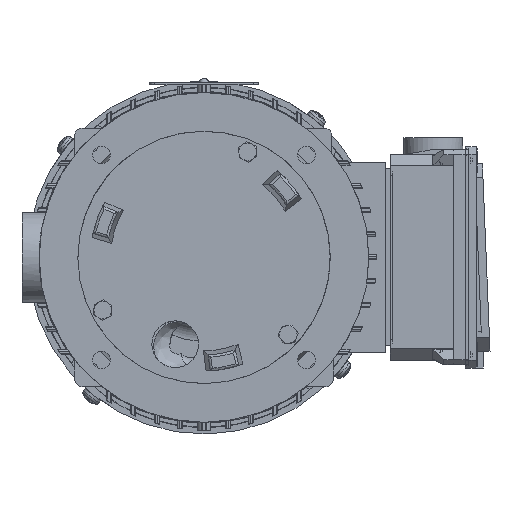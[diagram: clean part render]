
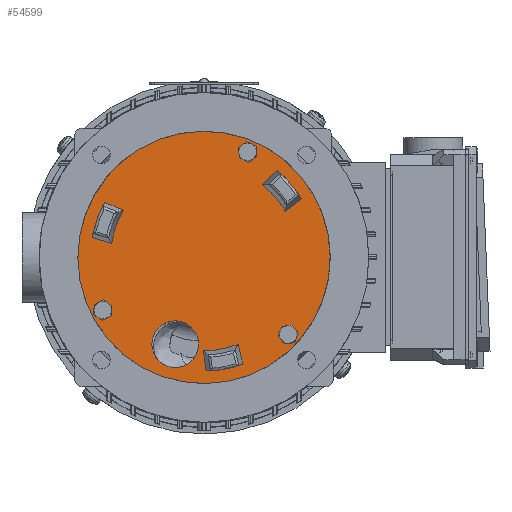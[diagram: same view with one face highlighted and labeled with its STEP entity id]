
A CAD part, front view. The second image highlights one B-rep face of the part: STEP entity #54599.
In plain terms, the highlighted planar face has unit normal (0, -1, 0).
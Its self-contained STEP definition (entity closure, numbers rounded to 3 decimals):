
#2443=PLANE('',#59034);
#3010=FACE_BOUND('',#8392,.T.);
#3011=FACE_BOUND('',#8393,.T.);
#3012=FACE_BOUND('',#8394,.T.);
#3013=FACE_BOUND('',#8395,.T.);
#3014=FACE_BOUND('',#8396,.T.);
#3015=FACE_BOUND('',#8397,.T.);
#3016=FACE_BOUND('',#8398,.T.);
#5302=FACE_OUTER_BOUND('',#8391,.T.);
#8391=EDGE_LOOP('',(#46396));
#8392=EDGE_LOOP('',(#46397,#46398));
#8393=EDGE_LOOP('',(#46399,#46400));
#8394=EDGE_LOOP('',(#46401,#46402));
#8395=EDGE_LOOP('',(#46403,#46404,#46405,#46406));
#8396=EDGE_LOOP('',(#46407,#46408,#46409,#46410));
#8397=EDGE_LOOP('',(#46411,#46412,#46413,#46414));
#8398=EDGE_LOOP('',(#46415));
#11351=CIRCLE('',#58860,0.302);
#11352=CIRCLE('',#58861,0.302);
#11366=CIRCLE('',#58894,0.302);
#11367=CIRCLE('',#58895,0.302);
#11381=CIRCLE('',#58928,0.302);
#11382=CIRCLE('',#58929,0.302);
#11397=CIRCLE('',#58957,0.925);
#11408=CIRCLE('',#58972,5.);
#11417=CIRCLE('',#58992,3.702);
#11422=CIRCLE('',#59008,4.502);
#11427=CIRCLE('',#59022,4.502);
#11428=CIRCLE('',#59026,3.702);
#11429=CIRCLE('',#59030,4.502);
#11430=CIRCLE('',#59033,3.702);
#15427=LINE('',#98085,#19748);
#15432=LINE('',#98169,#19753);
#15437=LINE('',#98260,#19758);
#15438=LINE('',#98274,#19759);
#15439=LINE('',#98279,#19760);
#15440=LINE('',#98288,#19761);
#19748=VECTOR('',#71392,1.);
#19753=VECTOR('',#71419,1.);
#19758=VECTOR('',#71452,1.);
#19759=VECTOR('',#71463,1.);
#19760=VECTOR('',#71470,1.);
#19761=VECTOR('',#71479,1.);
#24618=VERTEX_POINT('',#97428);
#24619=VERTEX_POINT('',#97429);
#24645=VERTEX_POINT('',#97540);
#24646=VERTEX_POINT('',#97541);
#24672=VERTEX_POINT('',#97652);
#24673=VERTEX_POINT('',#97653);
#24695=VERTEX_POINT('',#97858);
#24705=VERTEX_POINT('',#97966);
#24717=VERTEX_POINT('',#98073);
#24718=VERTEX_POINT('',#98077);
#24719=VERTEX_POINT('',#98083);
#24730=VERTEX_POINT('',#98166);
#24731=VERTEX_POINT('',#98168);
#24732=VERTEX_POINT('',#98174);
#24743=VERTEX_POINT('',#98257);
#24744=VERTEX_POINT('',#98259);
#24745=VERTEX_POINT('',#98265);
#24746=VERTEX_POINT('',#98270);
#24747=VERTEX_POINT('',#98278);
#24748=VERTEX_POINT('',#98284);
#31897=EDGE_CURVE('',#24618,#24619,#11351,.T.);
#31898=EDGE_CURVE('',#24619,#24618,#11352,.T.);
#31939=EDGE_CURVE('',#24645,#24646,#11366,.T.);
#31940=EDGE_CURVE('',#24646,#24645,#11367,.T.);
#31981=EDGE_CURVE('',#24672,#24673,#11381,.T.);
#31982=EDGE_CURVE('',#24673,#24672,#11382,.T.);
#32021=EDGE_CURVE('',#24695,#24695,#11397,.T.);
#32039=EDGE_CURVE('',#24705,#24705,#11408,.T.);
#32061=EDGE_CURVE('',#24718,#24717,#11417,.T.);
#32064=EDGE_CURVE('',#24717,#24719,#15427,.T.);
#32080=EDGE_CURVE('',#24731,#24730,#15432,.T.);
#32083=EDGE_CURVE('',#24730,#24732,#11422,.T.);
#32099=EDGE_CURVE('',#24744,#24743,#15437,.T.);
#32102=EDGE_CURVE('',#24743,#24745,#11427,.T.);
#32104=EDGE_CURVE('',#24745,#24746,#15438,.T.);
#32105=EDGE_CURVE('',#24746,#24744,#11428,.T.);
#32106=EDGE_CURVE('',#24747,#24718,#15439,.T.);
#32108=EDGE_CURVE('',#24719,#24747,#11429,.T.);
#32110=EDGE_CURVE('',#24732,#24748,#15440,.T.);
#32111=EDGE_CURVE('',#24748,#24731,#11430,.T.);
#46396=ORIENTED_EDGE('',*,*,#32039,.T.);
#46397=ORIENTED_EDGE('',*,*,#31897,.T.);
#46398=ORIENTED_EDGE('',*,*,#31898,.T.);
#46399=ORIENTED_EDGE('',*,*,#31939,.T.);
#46400=ORIENTED_EDGE('',*,*,#31940,.T.);
#46401=ORIENTED_EDGE('',*,*,#31981,.T.);
#46402=ORIENTED_EDGE('',*,*,#31982,.T.);
#46403=ORIENTED_EDGE('',*,*,#32104,.T.);
#46404=ORIENTED_EDGE('',*,*,#32105,.T.);
#46405=ORIENTED_EDGE('',*,*,#32099,.T.);
#46406=ORIENTED_EDGE('',*,*,#32102,.T.);
#46407=ORIENTED_EDGE('',*,*,#32106,.T.);
#46408=ORIENTED_EDGE('',*,*,#32061,.T.);
#46409=ORIENTED_EDGE('',*,*,#32064,.T.);
#46410=ORIENTED_EDGE('',*,*,#32108,.T.);
#46411=ORIENTED_EDGE('',*,*,#32110,.T.);
#46412=ORIENTED_EDGE('',*,*,#32111,.T.);
#46413=ORIENTED_EDGE('',*,*,#32080,.T.);
#46414=ORIENTED_EDGE('',*,*,#32083,.T.);
#46415=ORIENTED_EDGE('',*,*,#32021,.T.);
#54599=ADVANCED_FACE('',(#5302,#3010,#3011,#3012,#3013,#3014,#3015,#3016),
#2443,.F.);
#58860=AXIS2_PLACEMENT_3D('',#97430,#71069,#71070);
#58861=AXIS2_PLACEMENT_3D('',#97431,#71071,#71072);
#58894=AXIS2_PLACEMENT_3D('',#97542,#71152,#71153);
#58895=AXIS2_PLACEMENT_3D('',#97543,#71154,#71155);
#58928=AXIS2_PLACEMENT_3D('',#97654,#71235,#71236);
#58929=AXIS2_PLACEMENT_3D('',#97655,#71237,#71238);
#58957=AXIS2_PLACEMENT_3D('',#97860,#71309,#71310);
#58972=AXIS2_PLACEMENT_3D('',#97967,#71341,#71342);
#58992=AXIS2_PLACEMENT_3D('',#98078,#71386,#71387);
#59008=AXIS2_PLACEMENT_3D('',#98176,#71424,#71425);
#59022=AXIS2_PLACEMENT_3D('',#98267,#71457,#71458);
#59026=AXIS2_PLACEMENT_3D('',#98276,#71466,#71467);
#59030=AXIS2_PLACEMENT_3D('',#98282,#71475,#71476);
#59033=AXIS2_PLACEMENT_3D('',#98290,#71482,#71483);
#59034=AXIS2_PLACEMENT_3D('',#98291,#71484,#71485);
#71069=DIRECTION('center_axis',(0.,1.,0.));
#71070=DIRECTION('ref_axis',(0.6,0.,-0.8));
#71071=DIRECTION('center_axis',(0.,1.,0.));
#71072=DIRECTION('ref_axis',(0.6,0.,-0.8));
#71152=DIRECTION('center_axis',(0.,1.,0.));
#71153=DIRECTION('ref_axis',(-0.908,0.,0.419));
#71154=DIRECTION('center_axis',(0.,1.,0.));
#71155=DIRECTION('ref_axis',(-0.908,0.,0.419));
#71235=DIRECTION('center_axis',(0.,1.,0.));
#71236=DIRECTION('ref_axis',(0.843,0.,-0.538));
#71237=DIRECTION('center_axis',(0.,1.,0.));
#71238=DIRECTION('ref_axis',(0.843,0.,-0.538));
#71309=DIRECTION('center_axis',(0.,1.,0.));
#71310=DIRECTION('ref_axis',(-0.76,0.,-0.649));
#71341=DIRECTION('center_axis',(0.,-1.,0.));
#71342=DIRECTION('ref_axis',(-0.76,0.,-0.649));
#71386=DIRECTION('center_axis',(0.,-1.,0.));
#71387=DIRECTION('ref_axis',(0.863,0.,-0.506));
#71392=DIRECTION('',(-0.958,0.,0.287));
#71419=DIRECTION('',(0.231,0.,-0.973));
#71424=DIRECTION('center_axis',(0.,1.,0.));
#71425=DIRECTION('ref_axis',(0.018,0.,-1.));
#71452=DIRECTION('',(0.727,0.,0.686));
#71457=DIRECTION('center_axis',(0.,1.,0.));
#71458=DIRECTION('ref_axis',(0.857,0.,0.516));
#71463=DIRECTION('',(-0.792,0.,-0.611));
#71466=DIRECTION('center_axis',(0.,-1.,0.));
#71467=DIRECTION('ref_axis',(-0.87,0.,-0.494));
#71470=DIRECTION('',(0.925,0.,-0.38));
#71475=DIRECTION('center_axis',(0.,1.,0.));
#71476=DIRECTION('ref_axis',(-0.875,0.,0.484));
#71479=DIRECTION('',(-0.133,0.,0.991));
#71482=DIRECTION('center_axis',(0.,-1.,0.));
#71483=DIRECTION('ref_axis',(0.007,0.,1.));
#71484=DIRECTION('center_axis',(0.,1.,0.));
#71485=DIRECTION('ref_axis',(-0.649,0.,0.76));
#97428=CARTESIAN_POINT('',(3.517,-27.045,-3.298));
#97429=CARTESIAN_POINT('',(3.155,-27.045,-2.816));
#97430=CARTESIAN_POINT('Origin',(3.336,-27.045,-3.057));
#97431=CARTESIAN_POINT('Origin',(3.336,-27.045,-3.057));
#97540=CARTESIAN_POINT('',(1.458,-27.045,4.307));
#97541=CARTESIAN_POINT('',(2.005,-27.045,4.054));
#97542=CARTESIAN_POINT('Origin',(1.732,-27.045,4.181));
#97543=CARTESIAN_POINT('Origin',(1.732,-27.045,4.181));
#97652=CARTESIAN_POINT('',(-3.76,-27.045,-2.252));
#97653=CARTESIAN_POINT('',(-4.268,-27.045,-1.927));
#97654=CARTESIAN_POINT('Origin',(-4.014,-27.045,-2.089));
#97655=CARTESIAN_POINT('Origin',(-4.014,-27.045,-2.089));
#97858=CARTESIAN_POINT('',(-0.438,-27.045,-2.84));
#97860=CARTESIAN_POINT('Origin',(-1.141,-27.045,-3.441));
#97966=CARTESIAN_POINT('',(3.802,-27.045,3.247));
#97967=CARTESIAN_POINT('Origin',(0.,-27.045,
0.));
#98073=CARTESIAN_POINT('',(-3.66,-27.045,0.553));
#98077=CARTESIAN_POINT('',(-3.193,-27.045,1.873));
#98078=CARTESIAN_POINT('Origin',(0.,-27.045,
0.));
#98083=CARTESIAN_POINT('',(-4.433,-27.045,0.785));
#98085=CARTESIAN_POINT('',(-2.291,-27.045,0.144));
#98166=CARTESIAN_POINT('',(1.537,-27.045,-4.231));
#98168=CARTESIAN_POINT('',(1.351,-27.045,-3.446));
#98169=CARTESIAN_POINT('',(1.021,-27.045,-2.056));
#98174=CARTESIAN_POINT('',(0.082,-27.045,-4.501));
#98176=CARTESIAN_POINT('Origin',(0.,-27.045,
0.));
#98257=CARTESIAN_POINT('',(2.896,-27.045,3.446));
#98259=CARTESIAN_POINT('',(2.309,-27.045,2.893));
#98260=CARTESIAN_POINT('',(1.27,-27.045,1.912));
#98265=CARTESIAN_POINT('',(3.857,-27.045,2.321));
#98267=CARTESIAN_POINT('Origin',(0.,-27.045,
0.));
#98270=CARTESIAN_POINT('',(3.218,-27.045,1.828));
#98274=CARTESIAN_POINT('',(1.768,-27.045,0.709));
#98276=CARTESIAN_POINT('Origin',(0.,-27.045,
0.));
#98278=CARTESIAN_POINT('',(-3.939,-27.045,2.18));
#98279=CARTESIAN_POINT('',(-1.498,-27.045,1.177));
#98282=CARTESIAN_POINT('Origin',(0.,-27.045,
0.));
#98284=CARTESIAN_POINT('',(-0.026,-27.045,-3.701));
#98288=CARTESIAN_POINT('',(-0.27,-27.045,-1.885));
#98290=CARTESIAN_POINT('Origin',(0.,-27.045,
0.));
#98291=CARTESIAN_POINT('Origin',(0.,-27.045,
0.));
